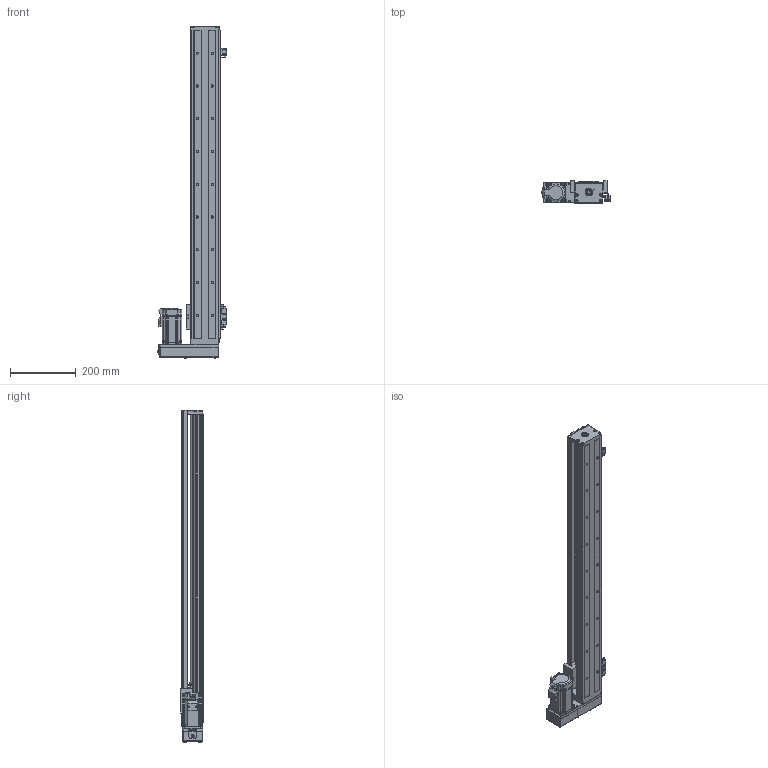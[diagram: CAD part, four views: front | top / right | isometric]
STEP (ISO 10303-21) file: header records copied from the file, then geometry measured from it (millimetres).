
FILE_DESCRIPTION (( 'STEP AP214' ), '1' );
FILE_NAME ('SFKK86-940A1-HL0C.STEP', '2023-02-17T08:54:54', ( '微软用户' ), ( '微软中国' ), 'SwSTEP 2.0', 'SolidWorks 2018', '' );
FILE_SCHEMA (( 'AUTOMOTIVE_DESIGN' ));
Length unit declared in the file: millimetre
Products named in the file (12): SX674嫖萇羲壽; SFKK86-CU_940; 极限轨道与开关固定座组合_940; hexagon socket countersunk head screws gb_GB_FASTENER_SCREWS_HSCHS M3X8-N; hexagon socket countersunk head screws gb_GB_FASTENER_SCREWS_HSCHS M4X10-N; SFKK86-A1-C; SFKK86-H0_KKR86-ZT-P-940; 带盖挡光片：KK-86-S2-D1; SFKK86-940A1-HL0C; 开关固定座：KK-674S2-F; SFKK86-H0-侂狟400W耜蚾; SFKK86-LR 憤癹寢耋_940
Assembly tree (18 placements, depth 3):
  SFKK86-940A1-HL0C
    SFKK86-H0_KKR86-ZT-P-940
    SFKK86-A1-C
    hexagon socket countersunk head screws gb_GB_FASTENER_SCREWS_HSCHS M3X8-N  x2
    SFKK86-CU_940
    hexagon socket countersunk head screws gb_GB_FASTENER_SCREWS_HSCHS M4X10-N  x4
    SFKK86-H0-侂狟400W耜蚾
    极限轨道与开关固定座组合_940
      SFKK86-LR 憤癹寢耋_940
      开关固定座：KK-674S2-F  x2
    SX674嫖萇羲壽  x3
    带盖挡光片：KK-86-S2-D1
Bounding box: 208.5 x 68 x 1013.2 mm (x, y, z)
Volume: 2244639.7 mm3; surface area: 859780.8 mm2
Topology: 38 solids, 87 shells, 3741 faces, 9966 edges, 6371 vertices
Faces by surface type: plane 1635, cylinder 1513, cone 357, torus 105, bspline 98, sphere 33
Entity records: 139494 total; most frequent: CARTESIAN_POINT 29384, DIRECTION 18795, ORIENTED_EDGE 18008, EDGE_CURVE 9287, AXIS2_PLACEMENT_3D 6784, VERTEX_POINT 6045, LINE 5227, VECTOR 5227
